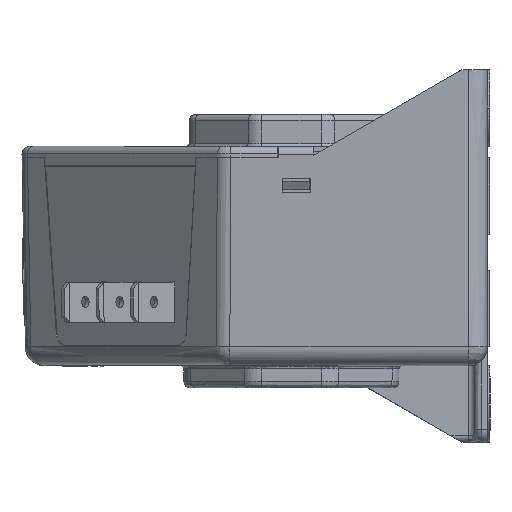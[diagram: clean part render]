
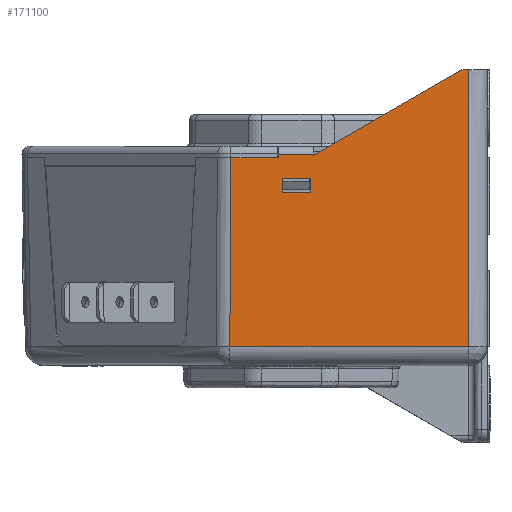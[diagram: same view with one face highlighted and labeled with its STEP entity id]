
A CAD part, left-side view. The second image highlights one B-rep face of the part: STEP entity #171100.
In plain terms, the highlighted planar face has unit normal (-1, 0, -0.018).
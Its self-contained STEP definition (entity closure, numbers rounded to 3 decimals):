
#6460=CARTESIAN_POINT('',(-42.944,1.45,29.4));
#6470=VERTEX_POINT('',#6460);
#6640=CARTESIAN_POINT('',(-42.906,1.45,27.2));
#6650=VERTEX_POINT('',#6640);
#6680=CARTESIAN_POINT('',(-42.431,1.45,0.));
#6690=DIRECTION('',(0.017,0.,-1.));
#6700=VECTOR('',#6690,1.);
#6710=LINE('',#6680,#6700);
#6720=EDGE_CURVE('',#6470,#6650,#6710,.T.);
#68570=CARTESIAN_POINT('',(-42.482,-27.751,
2.948));
#68580=VERTEX_POINT('',#68570);
#68610=CARTESIAN_POINT('',(-42.43,-27.751,-0.052
));
#68620=DIRECTION('',(0.017,0.,-1.));
#68630=VECTOR('',#68620,1.);
#68640=LINE('',#68610,#68630);
#68650=CARTESIAN_POINT('',(-43.241,-27.751,46.4));
#68660=VERTEX_POINT('',#68650);
#68670=EDGE_CURVE('',#68660,#68580,#68640,.T.);
#141070=CARTESIAN_POINT('',(-43.01,2.,
33.179));
#141080=VERTEX_POINT('',#141070);
#141110=CARTESIAN_POINT('',(-42.431,2.,0.));
#141120=DIRECTION('',(0.017,0.,
-1.));
#141130=VECTOR('',#141120,1.);
#141140=LINE('',#141110,#141130);
#141150=CARTESIAN_POINT('',(-43.,2.,32.6));
#141160=VERTEX_POINT('',#141150);
#141170=EDGE_CURVE('',#141080,#141160,#141140,.T.);
#150460=CARTESIAN_POINT('',(-42.482,9.659,
2.948));
#150470=VERTEX_POINT('',#150460);
#154490=CARTESIAN_POINT('',(-43.,9.508,32.6));
#154500=VERTEX_POINT('',#154490);
#154530=CARTESIAN_POINT('',(-42.43,9.675,
-0.052));
#154540=DIRECTION('',(0.017,0.005,
-1.));
#154550=VECTOR('',#154540,1.);
#154560=LINE('',#154530,#154550);
#154570=EDGE_CURVE('',#154500,#150470,#154560,.T.);
#159760=CARTESIAN_POINT('',(-40.,9.507,32.6));
#159770=DIRECTION('',(0.,0.,1.));
#159780=DIRECTION('',(1.,0.,0.));
#159790=AXIS2_PLACEMENT_3D('',#159760,#159770,#159780);
#159800=CYLINDRICAL_SURFACE('',#159790,3.);
#169860=CARTESIAN_POINT('',(-42.944,-21.635,
29.372));
#169870=DIRECTION('',(-1.,0.,
-0.017));
#169880=DIRECTION('',(0.,-1.,0.));
#169890=AXIS2_PLACEMENT_3D('',#169860,#169870,#169880);
#169900=PLANE('',#169890);
#169910=CARTESIAN_POINT('',(-42.482,0.,
2.948));
#169920=DIRECTION('',(0.,-1.,0.));
#169930=VECTOR('',#169920,1.);
#169940=LINE('',#169910,#169930);
#169950=CARTESIAN_POINT('',(-42.482,-27.751,
2.948));
#169960=VERTEX_POINT('',#169950);
#169970=EDGE_CURVE('',#150470,#169960,#169940,.T.);
#169980=ORIENTED_EDGE('',*,*,#169970,.T.);
#169990=ORIENTED_EDGE('',*,*,#154570,.T.);
#170000=CARTESIAN_POINT('',(-43.,0.,32.6));
#170010=DIRECTION('',(0.,1.,0.));
#170020=VECTOR('',#170010,1.);
#170030=LINE('',#170000,#170020);
#170040=CARTESIAN_POINT('',(-43.,9.507,
32.6));
#170050=VERTEX_POINT('',#170040);
#170060=EDGE_CURVE('',#170050,#154500,#170030,.T.);
#170070=ORIENTED_EDGE('',*,*,#170060,.T.);
#170080=CARTESIAN_POINT('',(-43.,9.507,32.6));
#170090=CARTESIAN_POINT('',(-43.,9.507,32.6));
#170100=CARTESIAN_POINT('',(-43.,9.507,
32.6));
#170110=CARTESIAN_POINT('',(-43.,9.507,
32.6));
#170120=CARTESIAN_POINT('',(-43.,9.507,
32.6));
#170130=CARTESIAN_POINT('',(-43.,9.507,
32.6));
#170140=CARTESIAN_POINT('',(-43.,9.507,
32.6));
#170150=CARTESIAN_POINT('',(-43.,9.507,
32.6));
#170160=CARTESIAN_POINT('',(-43.,9.507,
32.6));
#170170=CARTESIAN_POINT('',(-43.,9.507,
32.6));
#170180=CARTESIAN_POINT('',(-43.,9.507,
32.6));
#170190=CARTESIAN_POINT('',(-43.,9.507,
32.6));
#170200=CARTESIAN_POINT('',(-43.,9.507,
32.6));
#170210=B_SPLINE_CURVE_WITH_KNOTS('',3,(#170080,#170090,#170100,#170110,
#170120,#170130,#170140,#170150,#170160,#170170,#170180,#170190,#170200)
,.UNSPECIFIED.,.F.,.F.,(4,3,3,3,4),(0.,0.,
0.,0.,0.),
.UNSPECIFIED.);
#170220=SURFACE_CURVE('',#170210,(#169900,#159800),.CURVE_3D.);
#170230=CARTESIAN_POINT('',(-43.,9.507,32.6));
#170240=VERTEX_POINT('',#170230);
#170250=EDGE_CURVE('',#170240,#170050,#170220,.T.);
#170260=ORIENTED_EDGE('',*,*,#170250,.T.);
#170270=CARTESIAN_POINT('',(-43.,2.15,32.6));
#170280=VERTEX_POINT('',#170270);
#170290=EDGE_CURVE('',#170280,#170240,#170030,.T.);
#170300=ORIENTED_EDGE('',*,*,#170290,.T.);
#170310=CARTESIAN_POINT('',(-43.,0.,32.6));
#170320=DIRECTION('',(0.,-1.,0.));
#170330=VECTOR('',#170320,1.);
#170340=LINE('',#170310,#170330);
#170350=EDGE_CURVE('',#170280,#141160,#170340,.T.);
#170360=ORIENTED_EDGE('',*,*,#170350,.F.);
#170370=ORIENTED_EDGE('',*,*,#141170,.T.);
#170380=CARTESIAN_POINT('',(-43.01,0.,
33.179));
#170390=DIRECTION('',(0.,1.,0.));
#170400=VECTOR('',#170390,1.);
#170410=LINE('',#170380,#170400);
#170420=CARTESIAN_POINT('',(-43.01,-3.5,
33.179));
#170430=VERTEX_POINT('',#170420);
#170440=EDGE_CURVE('',#170430,#141080,#170410,.T.);
#170450=ORIENTED_EDGE('',*,*,#170440,.T.);
#170460=CARTESIAN_POINT('',(-42.431,-3.5,0.));
#170470=DIRECTION('',(-0.017,0.,
1.));
#170480=VECTOR('',#170470,1.);
#170490=LINE('',#170460,#170480);
#170500=CARTESIAN_POINT('',(-43.007,-3.5,
32.977));
#170510=VERTEX_POINT('',#170500);
#170520=EDGE_CURVE('',#170510,#170430,#170490,.T.);
#170530=ORIENTED_EDGE('',*,*,#170520,.T.);
#170540=CARTESIAN_POINT('',(-42.971,0.,30.956));
#170550=DIRECTION('',(0.009,0.866,
-0.5));
#170560=VECTOR('',#170550,1.);
#170570=LINE('',#170540,#170560);
#170580=CARTESIAN_POINT('',(-43.241,-26.75,46.4));
#170590=VERTEX_POINT('',#170580);
#170600=EDGE_CURVE('',#170590,#170510,#170570,.T.);
#170610=ORIENTED_EDGE('',*,*,#170600,.T.);
#170620=CARTESIAN_POINT('',(-43.241,0.,46.4));
#170630=DIRECTION('',(0.,-1.,0.));
#170640=VECTOR('',#170630,1.);
#170650=LINE('',#170620,#170640);
#170660=EDGE_CURVE('',#170590,#68660,#170650,.T.);
#170670=ORIENTED_EDGE('',*,*,#170660,.F.);
#170680=ORIENTED_EDGE('',*,*,#68670,.F.);
#170690=CARTESIAN_POINT('',(-42.482,-27.751,
2.948));
#170700=CARTESIAN_POINT('',(-42.482,-27.751,
2.948));
#170710=CARTESIAN_POINT('',(-42.482,-27.751,
2.948));
#170720=CARTESIAN_POINT('',(-42.482,-27.751,
2.948));
#170730=CARTESIAN_POINT('',(-42.482,-27.751,
2.948));
#170740=CARTESIAN_POINT('',(-42.482,-27.751,
2.948));
#170750=CARTESIAN_POINT('',(-42.482,-27.751,
2.948));
#170760=CARTESIAN_POINT('',(-42.482,-27.751,
2.948));
#170770=CARTESIAN_POINT('',(-42.482,-27.751,
2.948));
#170780=CARTESIAN_POINT('',(-42.482,-27.751,
2.948));
#170790=CARTESIAN_POINT('',(-42.482,-27.751,
2.948));
#170800=B_SPLINE_CURVE_WITH_KNOTS('',3,(#170690,#170700,#170710,#170720,
#170730,#170740,#170750,#170760,#170770,#170780,#170790),.UNSPECIFIED.,
.F.,.F.,(4,2,3,2,4),(0.,0.01,0.013,
0.016,0.026),.UNSPECIFIED.);
#170810=EDGE_CURVE('',#169960,#68580,#170800,.T.);
#170820=ORIENTED_EDGE('',*,*,#170810,.T.);
#170830=EDGE_LOOP('',(#170820,#170680,#170670,#170610,#170530,#170450,
#170370,#170360,#170300,#170260,#170070,#169990,#169980));
#170840=FACE_OUTER_BOUND('',#170830,.T.);
#170850=CARTESIAN_POINT('',(-42.944,0.,29.4));
#170860=DIRECTION('',(0.,1.,0.));
#170870=VECTOR('',#170860,1.);
#170880=LINE('',#170850,#170870);
#170890=CARTESIAN_POINT('',(-42.944,-2.95,29.4));
#170900=VERTEX_POINT('',#170890);
#170910=EDGE_CURVE('',#170900,#6470,#170880,.T.);
#170920=ORIENTED_EDGE('',*,*,#170910,.F.);
#170930=ORIENTED_EDGE('',*,*,#6720,.F.);
#170940=CARTESIAN_POINT('',(-42.906,0.,27.2));
#170950=DIRECTION('',(0.,1.,0.));
#170960=VECTOR('',#170950,1.);
#170970=LINE('',#170940,#170960);
#170980=CARTESIAN_POINT('',(-42.906,-2.95,27.2));
#170990=VERTEX_POINT('',#170980);
#171000=EDGE_CURVE('',#170990,#6650,#170970,.T.);
#171010=ORIENTED_EDGE('',*,*,#171000,.T.);
#171020=CARTESIAN_POINT('',(-42.431,-2.95,0.));
#171030=DIRECTION('',(-0.017,0.,
1.));
#171040=VECTOR('',#171030,1.);
#171050=LINE('',#171020,#171040);
#171060=EDGE_CURVE('',#170990,#170900,#171050,.T.);
#171070=ORIENTED_EDGE('',*,*,#171060,.F.);
#171080=EDGE_LOOP('',(#171070,#171010,#170930,#170920));
#171090=FACE_BOUND('',#171080,.T.);
#171100=ADVANCED_FACE('',(#170840,#171090),#169900,.T.);
